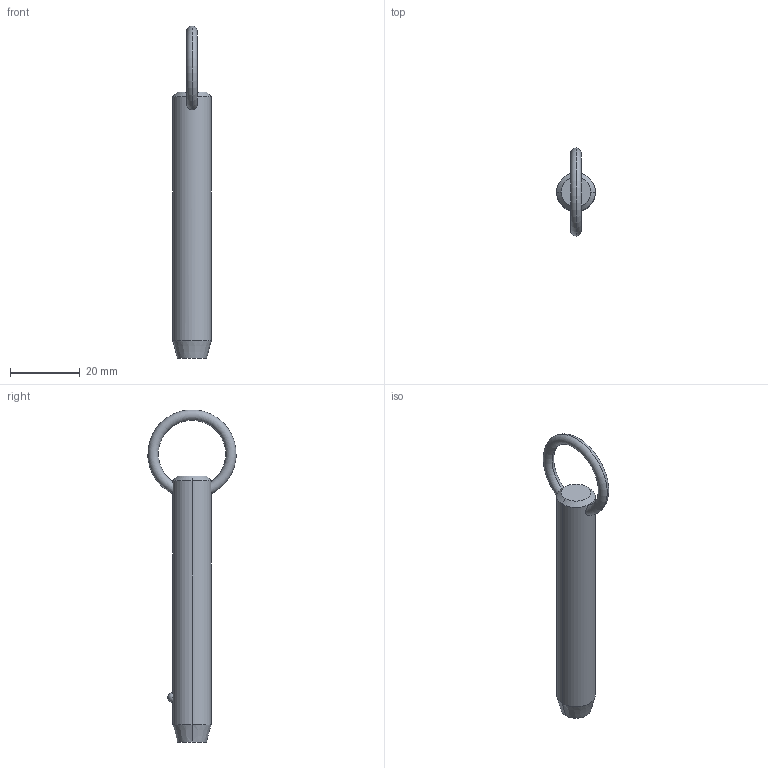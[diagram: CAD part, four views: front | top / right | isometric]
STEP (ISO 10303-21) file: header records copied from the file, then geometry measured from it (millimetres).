
FILE_DESCRIPTION (( 'STEP AP203' ), '1' );
FILE_NAME ('P1250.050-220.step', '2019-07-29T20:31:47', ( '' ), ( '' ), 'SwSTEP 2.0', 'SolidWorks 2017', '' );
FILE_SCHEMA (( 'CONFIG_CONTROL_DESIGN' ));
Length unit declared in the file: millimetre
Products named in the file (1): P1250.050-220
Bounding box: 11.1 x 25.32 x 95.45 mm (x, y, z)
Volume: 7685.5 mm3; surface area: 3320.3 mm2
Topology: 1 solids, 1 shells, 12 faces, 28 edges, 17 vertices
Faces by surface type: cone 4, torus 2, sphere 2, cylinder 2, plane 2
Entity records: 523 total; most frequent: CARTESIAN_POINT 190, DIRECTION 56, ORIENTED_EDGE 48, AXIS2_PLACEMENT_3D 25, EDGE_CURVE 24, EDGE_LOOP 15, VERTEX_POINT 15, ADVANCED_FACE 12
